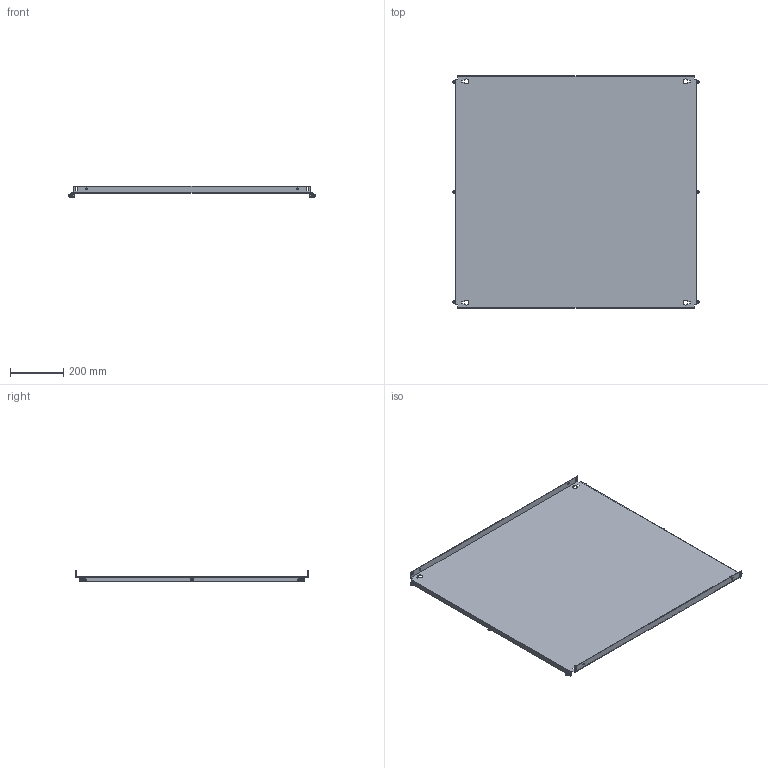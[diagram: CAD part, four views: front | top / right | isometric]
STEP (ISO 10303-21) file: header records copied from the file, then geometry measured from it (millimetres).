
FILE_DESCRIPTION(('Open CASCADE Model'),'2;1');
FILE_NAME('Open CASCADE Shape Model','2025-02-20T13:24:47',('Author'),( 'Open CASCADE'),'Open CASCADE STEP processor 7.8','Open CASCADE 7.8' ,'Unknown');
FILE_SCHEMA(('AUTOMOTIVE_DESIGN { 1 0 10303 214 1 1 1 1 }'));
Length unit declared in the file: millimetre
Products named in the file (4): Compound1; Solid1; Solid2; Solid3
Assembly tree (13 placements, depth 2):
  Compound1
    Solid1
    Solid2  x6
    Solid3  x6
Bounding box: 928 x 869 x 43 mm (x, y, z)
Volume: 1710934.6 mm3; surface area: 1718439.2 mm2
Topology: 13 solids, 13 shells, 420 faces, 1003 edges, 615 vertices
Faces by surface type: plane 192, cone 102, bspline 72, cylinder 36, torus 18
Full cylindrical faces by diameter (mm): 5 x6, 6 x12, 7 x14
Entity records: 4962 total; most frequent: CARTESIAN_POINT 1381, ORIENTED_EDGE 756, DIRECTION 650, EDGE_CURVE 378, VERTEX_POINT 245, AXIS2_PLACEMENT_3D 217, LINE 216, VECTOR 216
